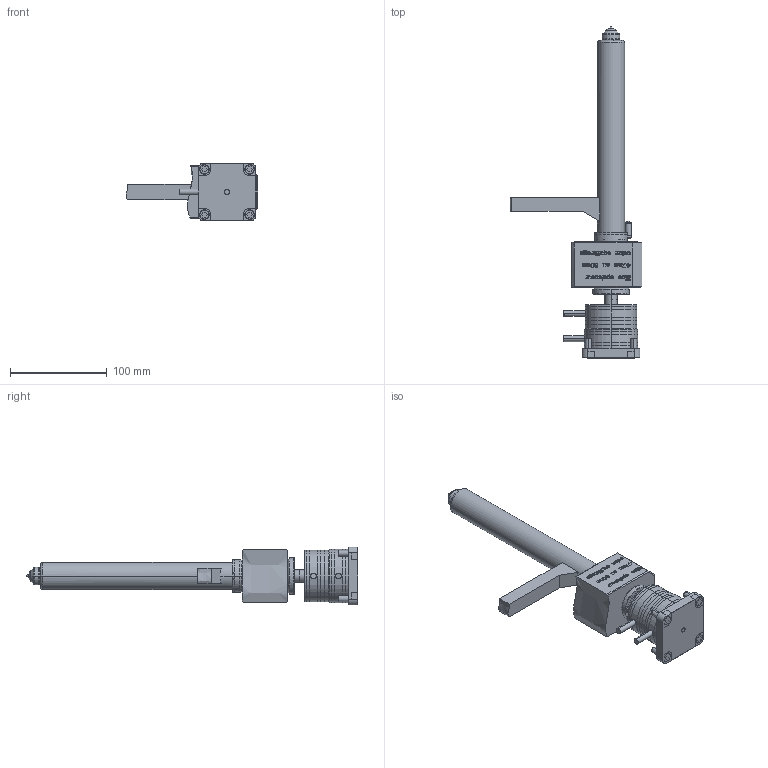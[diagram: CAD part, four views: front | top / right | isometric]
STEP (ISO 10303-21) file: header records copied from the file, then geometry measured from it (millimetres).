
FILE_DESCRIPTION((''),'2;1');
FILE_NAME('DG051019-VP_ASM','2020-04-09T',('benoit'),(''),'PRO/ENGINEER BY PARAMETRIC TECHNOLOGY CORPORATION, 2007450','PRO/ENGINEER BY PARAMETRIC TECHNOLOGY CORPORATION, 2007450','');
FILE_SCHEMA(('CONFIG_CONTROL_DESIGN'));
Length unit declared in the file: millimetre
Products named in the file (20): DG010130; 19X1_2E; BF021029-AV; DG050020; CAPOT_115_54MM; GOUPILLE-6-16; DG050019-POCHE-DP; A047315-DG223-1_5; BLOC-OBTURATION; VP010047; VP010032; VP010033; VP010035; VP010034; VIS_F90M5-8; VP010031; VIS_CHCM6-14; VP010030-POCHE; VP010030_ASM; DG051019-VP_ASM
Assembly tree (24 placements, depth 3):
  DG051019-VP_ASM
    DG010130
    19X1_2E  x2
    BF021029-AV
    DG050020
    CAPOT_115_54MM
    GOUPILLE-6-16
    DG050019-POCHE-DP
    A047315-DG223-1_5
    BLOC-OBTURATION
    VP010047
    VP010030_ASM
      VP010032
      VP010033
      VP010035
      VP010034
      VIS_F90M5-8  x2
      VP010031
      VIS_CHCM6-14  x4
      VP010030-POCHE
Bounding box: 136.5 x 343.64 x 60 mm (x, y, z)
Volume: 667404.6 mm3; surface area: 177313.4 mm2
Topology: 23 solids, 23 shells, 2194 faces, 5898 edges, 3819 vertices
Faces by surface type: plane 1601, cylinder 313, cone 148, torus 77, bspline 36, sphere 15, extrusion 4
Entity records: 71688 total; most frequent: CARTESIAN_POINT 18244, ORIENTED_EDGE 11334, DIRECTION 10446, EDGE_CURVE 5667, VECTOR 4580, LINE 4576, VERTEX_POINT 3694, AXIS2_PLACEMENT_3D 2933
